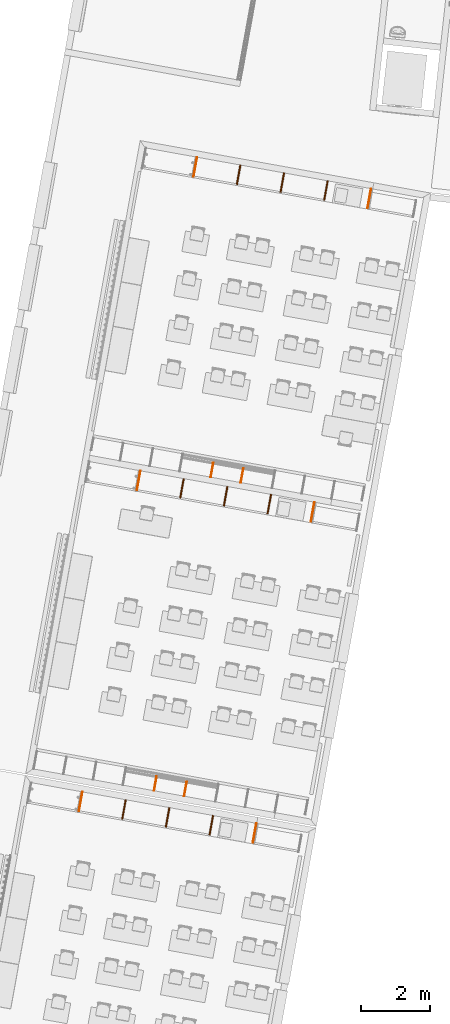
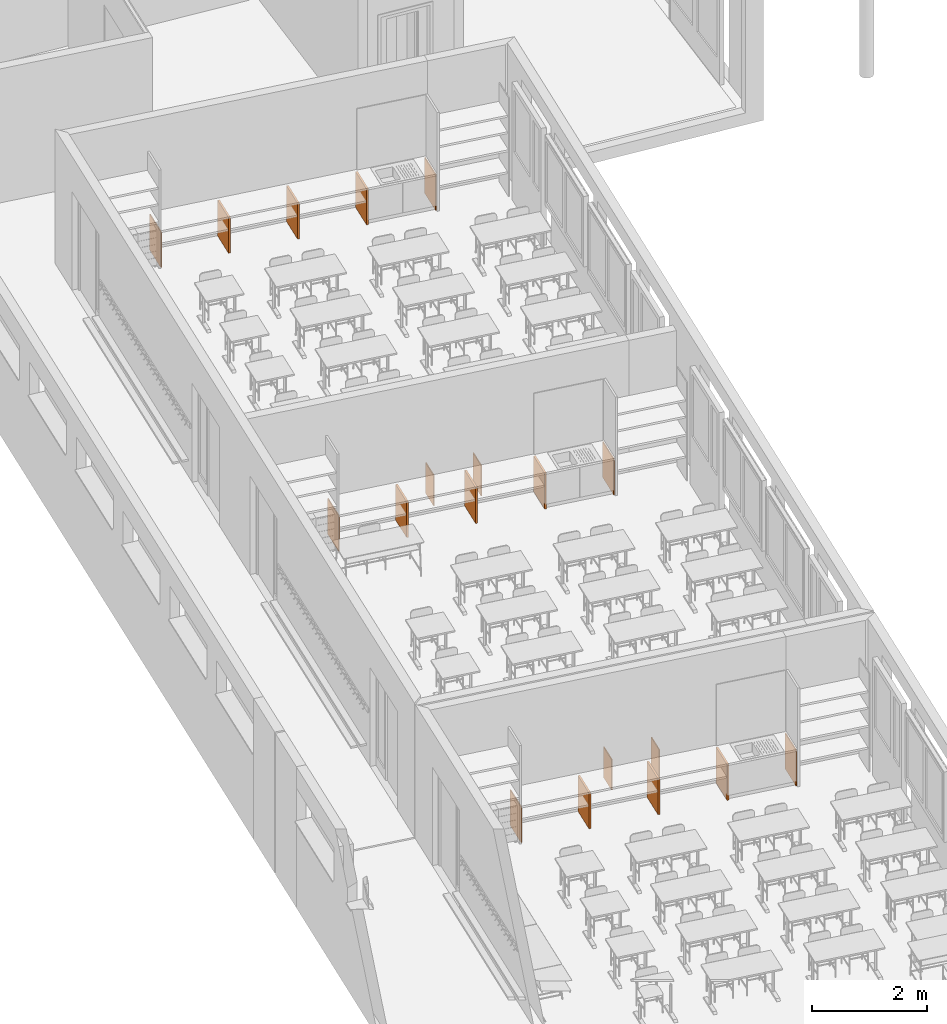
# One storey, part 53 of 79: 19 proxies.
"""IFC2X3 building model written with IfcOpenShell, lengths in metres."""

from ifc_helpers import new_model, entity, si_unit, converted_unit, derived_unit, money_unit, direction, frame, origin_with_axes, place, context, subcontext, project, spatial, polyline, outline, extrude, material, type_object, element, save


model = new_model("IFC2X3")

# Units and contexts
model_context = context("Model", 3, precision=1e-05, world=origin_with_axes(), true_north=direction((0.0, 1.0)))
body_context = subcontext(model_context, "Body", "Model", "MODEL_VIEW")
ifc_project = project(units=[si_unit("LENGTHUNIT", "METRE"), si_unit("AREAUNIT", "SQUARE_METRE"), si_unit("VOLUMEUNIT", "CUBIC_METRE"), converted_unit("PLANEANGLEUNIT", "DEGREE", entity("IfcPlaneAngleMeasure", 0.0174532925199), si_unit("PLANEANGLEUNIT", "RADIAN"), dimensions=[0, 0, 0, 0, 0, 0, 0]), money_unit("CHF"), converted_unit("TIMEUNIT", "Year", entity("IfcTimeMeasure", 31556926.0), si_unit("TIMEUNIT", "SECOND"), dimensions=[0, 0, 1, 0, 0, 0, 0]), si_unit("MASSUNIT", "GRAM", prefix="KILO"), si_unit("THERMODYNAMICTEMPERATUREUNIT", "DEGREE_CELSIUS"), si_unit("LUMINOUSINTENSITYUNIT", "LUMEN"), si_unit("ENERGYUNIT", "JOULE", prefix="MEGA"), derived_unit("THERMALCONDUCTANCEUNIT", [(si_unit("POWERUNIT", "WATT"), 1), (si_unit("LENGTHUNIT", "METRE"), -1), (si_unit("THERMODYNAMICTEMPERATUREUNIT", "KELVIN"), -1)]), derived_unit("SPECIFICHEATCAPACITYUNIT", [(si_unit("ENERGYUNIT", "JOULE"), 1), (si_unit("MASSUNIT", "GRAM", prefix="KILO"), -1), (si_unit("THERMODYNAMICTEMPERATUREUNIT", "KELVIN"), -1)]), derived_unit("MASSDENSITYUNIT", [(si_unit("MASSUNIT", "GRAM", prefix="KILO"), 1), (si_unit("VOLUMEUNIT", "CUBIC_METRE"), -1)])], contexts=[model_context])

# Site, building, storey
site_placement = place(None, frame((0.0, 0.0, 0.0), z_axis=(0.0, 0.0, 1.0), x_axis=(-0.177771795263, -0.984071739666, 0.0)))
site = spatial("IfcSite", under=ifc_project, at=site_placement, Name="Site", CompositionType="ELEMENT")
building_placement = place(site_placement, origin_with_axes())
building = spatial("IfcBuilding", under=site, at=building_placement, Name="Bâtiment", CompositionType="ELEMENT")
storey_placement = place(building_placement, origin_with_axes())
storey = spatial("IfcBuildingStorey", under=building, at=storey_placement, Name="RDC", CompositionType="ELEMENT", Elevation=0.0)

# Proxies
ifc_material = material(Name="_panneau mélaminé")
building_element_proxy_type_1 = type_object("IfcBuildingElementProxyType", Name="_panneau mélaminé 38", PredefinedType="NOTDEFINED")
proxy_1_placement = place(storey_placement, frame((110.674841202, -151.104151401, 0.0), z_axis=(0.0, 0.0, 1.0), x_axis=(-1.0, 0.0, 0.0)))
element("IfcBuildingElementProxy", 1, at=proxy_1_placement, inside=storey, type_object=building_element_proxy_type_1, material=ifc_material, Name="raidiseur-fd-classe double", context=body_context, shape_type="SweptSolid", body=[
    extrude(outline(polyline([(0.0, -0.019), (0.569999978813, -0.019), (0.569999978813, 0.019), (0.0, 0.019), (0.0, -0.019)])), origin_with_axes(), (0.0, 0.0, 1.0), 0.76),
])
for number, where, z_axis, x_axis, name in (
    (2, (110.674841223, -153.660193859, 0.0), (0.0, 0.0, 1.0), (-1.0, 0.0, 0.0), "raidiseur-fd-classe double"),
    (3, (110.674841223, -152.382193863, 0.0), (0.0, 0.0, 1.0), (-1.0, 0.0, 0.0), "raidiseur-fd-classe double"),
    (4, (119.854841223, -153.660193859, 0.0), (0.0, 0.0, 1.0), (-1.0, 0.0, 0.0), "raidiseur-fd-classe double"),
):
    element("IfcBuildingElementProxy", number, at=place(storey_placement, frame(where, z_axis=z_axis, x_axis=x_axis)), inside=storey, type_object=building_element_proxy_type_1, material=ifc_material, Name=name, context=body_context, shape_type="SweptSolid", body=[
        extrude(outline(polyline([(0.0, -0.019), (0.57, -0.019), (0.57, 0.019), (0.0, 0.019), (0.0, -0.019)])), origin_with_axes(), (0.0, 0.0, 1.0), 0.76),
    ])
proxy_2_placement = place(storey_placement, frame((119.854841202, -151.104151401, 0.0), z_axis=(0.0, 0.0, 1.0), x_axis=(-1.0, 0.0, 0.0)))
element("IfcBuildingElementProxy", 5, at=proxy_2_placement, inside=storey, type_object=building_element_proxy_type_1, material=ifc_material, Name="raidiseur-fd-classe double", context=body_context, shape_type="SweptSolid", body=[
    extrude(outline(polyline([(0.0, -0.019), (0.569999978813, -0.019), (0.569999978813, 0.019), (0.0, 0.019), (0.0, -0.019)])), origin_with_axes(), (0.0, 0.0, 1.0), 0.76),
])
for number, where, z_axis, x_axis, name in (
    (6, (119.854841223, -152.382193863, 0.0), (0.0, 0.0, 1.0), (-1.0, 0.0, 0.0), "raidiseur-fd-classe double"),
    (7, (129.254841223, -153.660193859, 0.0), (0.0, 0.0, 1.0), (-1.0, 0.0, 0.0), "raidiseur-fd-classe double"),
):
    element("IfcBuildingElementProxy", number, at=place(storey_placement, frame(where, z_axis=z_axis, x_axis=x_axis)), inside=storey, type_object=building_element_proxy_type_1, material=ifc_material, Name=name, context=body_context, shape_type="SweptSolid", body=[
        extrude(outline(polyline([(0.0, -0.019), (0.57, -0.019), (0.57, 0.019), (0.0, 0.019), (0.0, -0.019)])), origin_with_axes(), (0.0, 0.0, 1.0), 0.76),
    ])
proxy_3_placement = place(storey_placement, frame((129.254841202, -151.104151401, 0.0), z_axis=(0.0, 0.0, 1.0), x_axis=(-1.0, 0.0, 0.0)))
element("IfcBuildingElementProxy", 8, at=proxy_3_placement, inside=storey, type_object=building_element_proxy_type_1, material=ifc_material, Name="raidiseur-fd-classe double", context=body_context, shape_type="SweptSolid", body=[
    extrude(outline(polyline([(0.0, -0.019), (0.569999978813, -0.019), (0.569999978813, 0.019), (0.0, 0.019), (0.0, -0.019)])), origin_with_axes(), (0.0, 0.0, 1.0), 0.76),
])
proxy_4_placement = place(storey_placement, frame((129.254841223, -152.382193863, 0.0), z_axis=(0.0, 0.0, 1.0), x_axis=(-1.0, 0.0, 0.0)))
element("IfcBuildingElementProxy", 9, at=proxy_4_placement, inside=storey, type_object=building_element_proxy_type_1, material=ifc_material, Name="raidiseur-fd-classe double", context=body_context, shape_type="SweptSolid", body=[
    extrude(outline(polyline([(0.0, -0.019), (0.57, -0.019), (0.57, 0.019), (0.0, 0.019), (0.0, -0.019)])), origin_with_axes(), (0.0, 0.0, 1.0), 0.76),
])
building_element_proxy_type_2 = type_object("IfcBuildingElementProxyType", Name="_panneau mélaminé 19", PredefinedType="NOTDEFINED")
proxy_5_placement = place(storey_placement, frame((110.674841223, -154.919236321, 0.0), z_axis=(0.0, 0.0, 1.0), x_axis=(-1.0, 0.0, 0.0)))
element("IfcBuildingElementProxy", 10, at=proxy_5_placement, inside=storey, type_object=building_element_proxy_type_2, material=ifc_material, Name="raidiseur-fd-classe simple", context=body_context, shape_type="SweptSolid", body=[
    extrude(outline(polyline([(0.0, 0.0), (0.570000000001, 0.0), (0.570000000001, 0.019), (0.0, 0.019), (0.0, 0.0)])), origin_with_axes(), (0.0, 0.0, 1.0), 0.76),
])
proxy_6_placement = place(storey_placement, frame((110.674841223, -149.845151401, 0.0), z_axis=(0.0, 0.0, 1.0), x_axis=(-1.0, 0.0, 0.0)))
element("IfcBuildingElementProxy", 11, at=proxy_6_placement, inside=storey, type_object=building_element_proxy_type_2, material=ifc_material, Name="raidiseur-fd-classe simple", context=body_context, shape_type="SweptSolid", body=[
    extrude(outline(polyline([(0.0, -0.019), (0.57, -0.019), (0.57, 0.0), (0.0, 0.0), (0.0, -0.019)])), origin_with_axes(), (0.0, 0.0, 1.0), 0.76),
])
proxy_7_placement = place(storey_placement, frame((118.684841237, -152.023049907, 0.0), z_axis=(0.0, 0.0, 1.0), x_axis=(1.0, 0.0, 0.0)))
element("IfcBuildingElementProxy", 12, at=proxy_7_placement, inside=storey, type_object=building_element_proxy_type_2, material=ifc_material, Name="raidiseur-sous-tableau", context=body_context, shape_type="SweptSolid", body=[
    extrude(outline(polyline([(0.0, -0.0095), (0.419999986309, -0.0095), (0.419999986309, 0.0095), (0.0, 0.0095), (0.0, -0.0095)])), origin_with_axes(), (0.0, 0.0, 1.0), 0.65),
])
for number, where, z_axis, x_axis, name in (
    (13, (118.684841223, -152.903049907, 0.0), (0.0, 0.0, 1.0), (1.0, 0.0, 0.0), "raidiseur-sous-tableau"),
    (14, (127.864841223, -152.023049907, 0.0), (0.0, 0.0, 1.0), (1.0, 0.0, 0.0), "raidiseur-sous-tableau"),
    (15, (127.864841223, -152.903049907, 0.0), (0.0, 0.0, 1.0), (1.0, 0.0, 0.0), "raidiseur-sous-tableau"),
):
    element("IfcBuildingElementProxy", number, at=place(storey_placement, frame(where, z_axis=z_axis, x_axis=x_axis)), inside=storey, type_object=building_element_proxy_type_2, material=ifc_material, Name=name, context=body_context, shape_type="SweptSolid", body=[
        extrude(outline(polyline([(0.0, -0.0095), (0.42, -0.0095), (0.42, 0.0095), (0.0, 0.0095), (0.0, -0.0095)])), origin_with_axes(), (0.0, 0.0, 1.0), 0.65),
    ])
proxy_8_placement = place(storey_placement, frame((119.854841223, -149.845151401, 0.0), z_axis=(0.0, 0.0, 1.0), x_axis=(-1.0, 0.0, 0.0)))
element("IfcBuildingElementProxy", 16, at=proxy_8_placement, inside=storey, type_object=building_element_proxy_type_2, material=ifc_material, Name="raidiseur-fd-classe simple", context=body_context, shape_type="SweptSolid", body=[
    extrude(outline(polyline([(0.0, -0.019), (0.57, -0.019), (0.57, 0.0), (0.0, 0.0), (0.0, -0.019)])), origin_with_axes(), (0.0, 0.0, 1.0), 0.76),
])
proxy_9_placement = place(storey_placement, frame((119.854841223, -154.919236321, 0.0), z_axis=(0.0, 0.0, 1.0), x_axis=(-1.0, 0.0, 0.0)))
element("IfcBuildingElementProxy", 17, at=proxy_9_placement, inside=storey, type_object=building_element_proxy_type_2, material=ifc_material, Name="raidiseur-fd-classe simple", context=body_context, shape_type="SweptSolid", body=[
    extrude(outline(polyline([(0.0, 0.0), (0.570000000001, 0.0), (0.570000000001, 0.019), (0.0, 0.019), (0.0, 0.0)])), origin_with_axes(), (0.0, 0.0, 1.0), 0.76),
])
proxy_10_placement = place(storey_placement, frame((129.254841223, -149.845151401, 0.0), z_axis=(0.0, 0.0, 1.0), x_axis=(-1.0, 0.0, 0.0)))
element("IfcBuildingElementProxy", 18, at=proxy_10_placement, inside=storey, type_object=building_element_proxy_type_2, material=ifc_material, Name="raidiseur-fd-classe simple", context=body_context, shape_type="SweptSolid", body=[
    extrude(outline(polyline([(0.0, -0.019), (0.57, -0.019), (0.57, 0.0), (0.0, 0.0), (0.0, -0.019)])), origin_with_axes(), (0.0, 0.0, 1.0), 0.76),
])
proxy_11_placement = place(storey_placement, frame((129.254841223, -154.919236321, 0.0), z_axis=(0.0, 0.0, 1.0), x_axis=(-1.0, 0.0, 0.0)))
element("IfcBuildingElementProxy", 19, at=proxy_11_placement, inside=storey, type_object=building_element_proxy_type_2, material=ifc_material, Name="raidiseur-fd-classe simple", context=body_context, shape_type="SweptSolid", body=[
    extrude(outline(polyline([(0.0, 0.0), (0.570000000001, 0.0), (0.570000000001, 0.019), (0.0, 0.019), (0.0, 0.0)])), origin_with_axes(), (0.0, 0.0, 1.0), 0.76),
])

save(model, "model.ifc")
